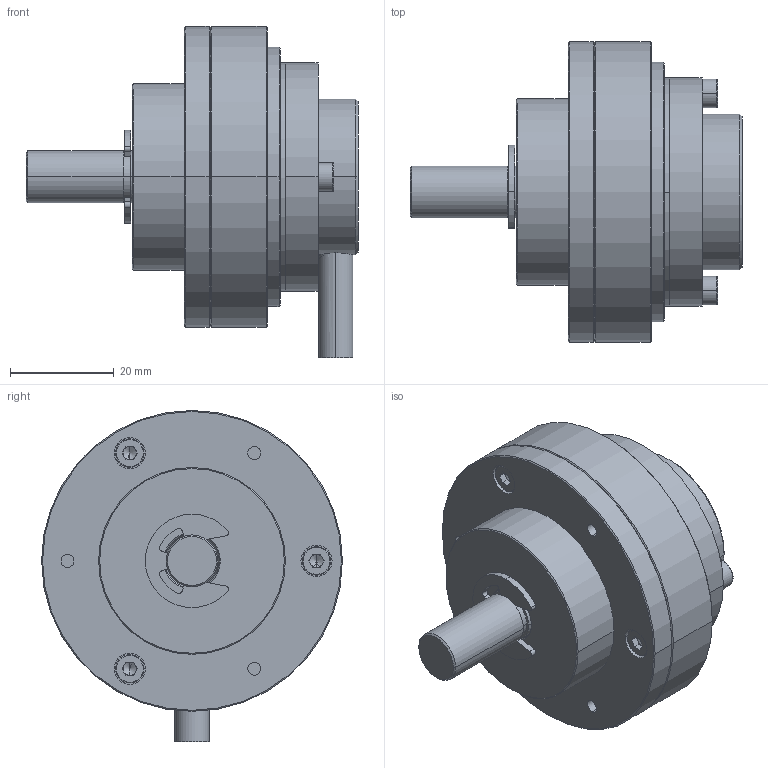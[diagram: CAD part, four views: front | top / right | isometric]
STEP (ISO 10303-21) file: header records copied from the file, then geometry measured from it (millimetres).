
FILE_DESCRIPTION (( 'STEP AP214' ), '1' );
FILE_NAME ('ËÈÐ-ÌÈ158Ë èñï. 3.STEP', '2017-05-23T08:31:52', ( '' ), ( '' ), 'SwSTEP 2.0', 'SolidWorks 2013', '' );
FILE_SCHEMA (( 'AUTOMOTIVE_DESIGN' ));
Length unit declared in the file: millimetre
Products named in the file (1): ËÈÐ-ÌÈ158Ë èñï. 3
Bounding box: 64 x 58 x 63.82 mm (x, y, z)
Volume: 63964.5 mm3; surface area: 45057.1 mm2
Topology: 32 solids, 32 shells, 1882 faces, 4906 edges, 3068 vertices
Faces by surface type: cone 773, cylinder 601, plane 235, torus 134, sphere 128, bspline 11
Entity records: 87519 total; most frequent: CARTESIAN_POINT 19156, DIRECTION 10765, ORIENTED_EDGE 9752, EDGE_CURVE 4876, AXIS2_PLACEMENT_3D 4598, VERTEX_POINT 3068, CIRCLE 2726, EDGE_LOOP 2022
